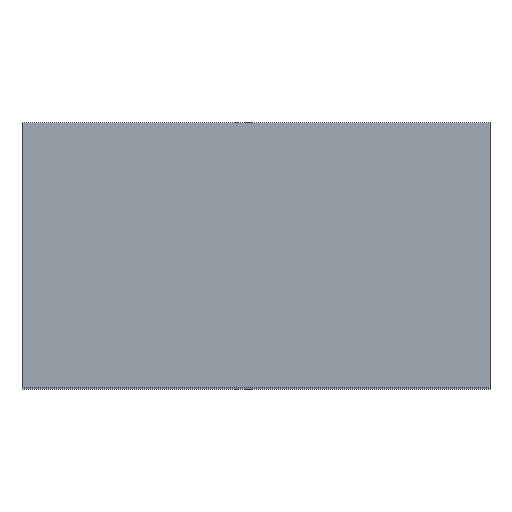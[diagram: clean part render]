
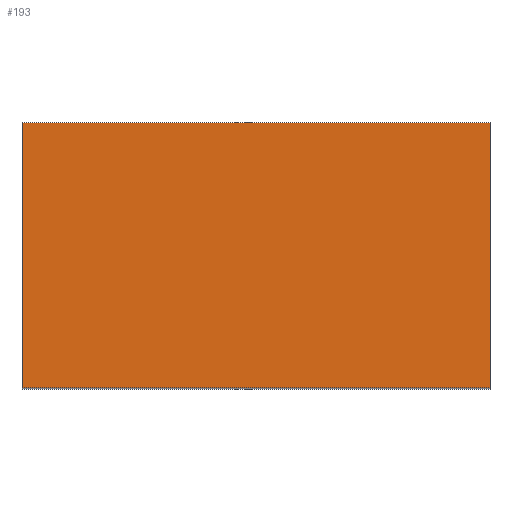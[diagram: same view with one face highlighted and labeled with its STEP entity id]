
A CAD part, top view. The second image highlights one B-rep face of the part: STEP entity #193.
In plain terms, the highlighted planar face has unit normal (0, 0, 1).
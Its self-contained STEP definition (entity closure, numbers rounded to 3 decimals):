
#24 = VERTEX_POINT('',#25);
#25 = CARTESIAN_POINT('',(-13.85,18.95,-50.7));
#32 = PLANE('',#33);
#33 = AXIS2_PLACEMENT_3D('',#34,#35,#36);
#34 = CARTESIAN_POINT('',(-13.85,18.95,-50.8));
#35 = DIRECTION('',(1.,0.,-0.));
#36 = DIRECTION('',(0.,0.,1.));
#44 = PLANE('',#45);
#45 = AXIS2_PLACEMENT_3D('',#46,#47,#48);
#46 = CARTESIAN_POINT('',(-13.85,18.95,-50.8));
#47 = DIRECTION('',(-0.,1.,0.));
#48 = DIRECTION('',(0.,0.,1.));
#141 = VERTEX_POINT('',#142);
#142 = CARTESIAN_POINT('',(-13.85,20.65,-50.7));
#156 = PLANE('',#157);
#157 = AXIS2_PLACEMENT_3D('',#158,#159,#160);
#158 = CARTESIAN_POINT('',(-13.85,20.65,-50.8));
#159 = DIRECTION('',(-0.,1.,0.));
#160 = DIRECTION('',(0.,0.,1.));
#168 = EDGE_CURVE('',#24,#141,#169,.T.);
#169 = SURFACE_CURVE('',#170,(#174,#181),.PCURVE_S1.);
#170 = LINE('',#171,#172);
#171 = CARTESIAN_POINT('',(-13.85,18.95,-50.7));
#172 = VECTOR('',#173,1.);
#173 = DIRECTION('',(0.,1.,0.));
#174 = PCURVE('',#32,#175);
#175 = DEFINITIONAL_REPRESENTATION('',(#176),#180);
#176 = LINE('',#177,#178);
#177 = CARTESIAN_POINT('',(0.1,0.));
#178 = VECTOR('',#179,1.);
#179 = DIRECTION('',(0.,-1.));
#180 = ( GEOMETRIC_REPRESENTATION_CONTEXT(2) 
PARAMETRIC_REPRESENTATION_CONTEXT() REPRESENTATION_CONTEXT('2D SPACE',''
  ) );
#181 = PCURVE('',#182,#187);
#182 = PLANE('',#183);
#183 = AXIS2_PLACEMENT_3D('',#184,#185,#186);
#184 = CARTESIAN_POINT('',(-13.85,18.95,-50.7));
#185 = DIRECTION('',(0.,0.,1.));
#186 = DIRECTION('',(1.,0.,-0.));
#187 = DEFINITIONAL_REPRESENTATION('',(#188),#192);
#188 = LINE('',#189,#190);
#189 = CARTESIAN_POINT('',(0.,0.));
#190 = VECTOR('',#191,1.);
#191 = DIRECTION('',(0.,1.));
#192 = ( GEOMETRIC_REPRESENTATION_CONTEXT(2) 
PARAMETRIC_REPRESENTATION_CONTEXT() REPRESENTATION_CONTEXT('2D SPACE',''
  ) );
#193 = ADVANCED_FACE('',(#194),#182,.T.);
#194 = FACE_BOUND('',#195,.T.);
#195 = EDGE_LOOP('',(#196,#197,#220,#248));
#196 = ORIENTED_EDGE('',*,*,#168,.F.);
#197 = ORIENTED_EDGE('',*,*,#198,.T.);
#198 = EDGE_CURVE('',#24,#199,#201,.T.);
#199 = VERTEX_POINT('',#200);
#200 = CARTESIAN_POINT('',(-10.85,18.95,-50.7));
#201 = SURFACE_CURVE('',#202,(#206,#213),.PCURVE_S1.);
#202 = LINE('',#203,#204);
#203 = CARTESIAN_POINT('',(-13.85,18.95,-50.7));
#204 = VECTOR('',#205,1.);
#205 = DIRECTION('',(1.,0.,-0.));
#206 = PCURVE('',#182,#207);
#207 = DEFINITIONAL_REPRESENTATION('',(#208),#212);
#208 = LINE('',#209,#210);
#209 = CARTESIAN_POINT('',(0.,0.));
#210 = VECTOR('',#211,1.);
#211 = DIRECTION('',(1.,0.));
#212 = ( GEOMETRIC_REPRESENTATION_CONTEXT(2) 
PARAMETRIC_REPRESENTATION_CONTEXT() REPRESENTATION_CONTEXT('2D SPACE',''
  ) );
#213 = PCURVE('',#44,#214);
#214 = DEFINITIONAL_REPRESENTATION('',(#215),#219);
#215 = LINE('',#216,#217);
#216 = CARTESIAN_POINT('',(0.1,0.));
#217 = VECTOR('',#218,1.);
#218 = DIRECTION('',(0.,1.));
#219 = ( GEOMETRIC_REPRESENTATION_CONTEXT(2) 
PARAMETRIC_REPRESENTATION_CONTEXT() REPRESENTATION_CONTEXT('2D SPACE',''
  ) );
#220 = ORIENTED_EDGE('',*,*,#221,.T.);
#221 = EDGE_CURVE('',#199,#222,#224,.T.);
#222 = VERTEX_POINT('',#223);
#223 = CARTESIAN_POINT('',(-10.85,20.65,-50.7));
#224 = SURFACE_CURVE('',#225,(#229,#236),.PCURVE_S1.);
#225 = LINE('',#226,#227);
#226 = CARTESIAN_POINT('',(-10.85,18.95,-50.7));
#227 = VECTOR('',#228,1.);
#228 = DIRECTION('',(0.,1.,0.));
#229 = PCURVE('',#182,#230);
#230 = DEFINITIONAL_REPRESENTATION('',(#231),#235);
#231 = LINE('',#232,#233);
#232 = CARTESIAN_POINT('',(3.,0.));
#233 = VECTOR('',#234,1.);
#234 = DIRECTION('',(0.,1.));
#235 = ( GEOMETRIC_REPRESENTATION_CONTEXT(2) 
PARAMETRIC_REPRESENTATION_CONTEXT() REPRESENTATION_CONTEXT('2D SPACE',''
  ) );
#236 = PCURVE('',#237,#242);
#237 = PLANE('',#238);
#238 = AXIS2_PLACEMENT_3D('',#239,#240,#241);
#239 = CARTESIAN_POINT('',(-10.85,18.95,-50.8));
#240 = DIRECTION('',(1.,0.,-0.));
#241 = DIRECTION('',(0.,0.,1.));
#242 = DEFINITIONAL_REPRESENTATION('',(#243),#247);
#243 = LINE('',#244,#245);
#244 = CARTESIAN_POINT('',(0.1,0.));
#245 = VECTOR('',#246,1.);
#246 = DIRECTION('',(0.,-1.));
#247 = ( GEOMETRIC_REPRESENTATION_CONTEXT(2) 
PARAMETRIC_REPRESENTATION_CONTEXT() REPRESENTATION_CONTEXT('2D SPACE',''
  ) );
#248 = ORIENTED_EDGE('',*,*,#249,.F.);
#249 = EDGE_CURVE('',#141,#222,#250,.T.);
#250 = SURFACE_CURVE('',#251,(#255,#262),.PCURVE_S1.);
#251 = LINE('',#252,#253);
#252 = CARTESIAN_POINT('',(-13.85,20.65,-50.7));
#253 = VECTOR('',#254,1.);
#254 = DIRECTION('',(1.,0.,-0.));
#255 = PCURVE('',#182,#256);
#256 = DEFINITIONAL_REPRESENTATION('',(#257),#261);
#257 = LINE('',#258,#259);
#258 = CARTESIAN_POINT('',(0.,1.7));
#259 = VECTOR('',#260,1.);
#260 = DIRECTION('',(1.,0.));
#261 = ( GEOMETRIC_REPRESENTATION_CONTEXT(2) 
PARAMETRIC_REPRESENTATION_CONTEXT() REPRESENTATION_CONTEXT('2D SPACE',''
  ) );
#262 = PCURVE('',#156,#263);
#263 = DEFINITIONAL_REPRESENTATION('',(#264),#268);
#264 = LINE('',#265,#266);
#265 = CARTESIAN_POINT('',(0.1,0.));
#266 = VECTOR('',#267,1.);
#267 = DIRECTION('',(0.,1.));
#268 = ( GEOMETRIC_REPRESENTATION_CONTEXT(2) 
PARAMETRIC_REPRESENTATION_CONTEXT() REPRESENTATION_CONTEXT('2D SPACE',''
  ) );
